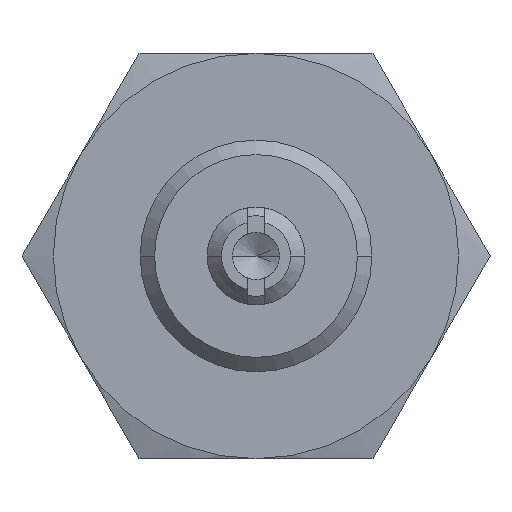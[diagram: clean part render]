
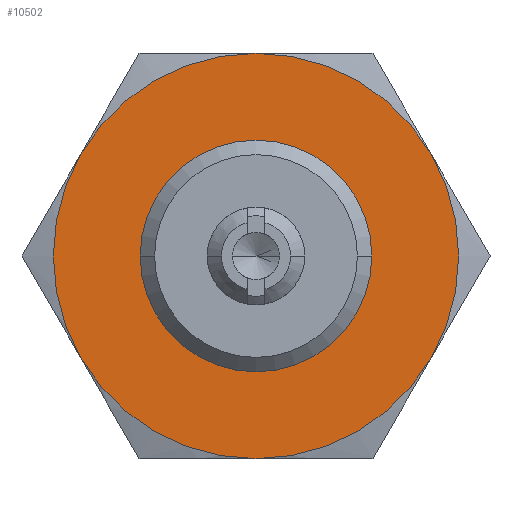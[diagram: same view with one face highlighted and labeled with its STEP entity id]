
A CAD part, left-side view. The second image highlights one B-rep face of the part: STEP entity #10502.
In plain terms, the highlighted free-form (B-spline) face has degree [1, 1] with [2, 2] control points.
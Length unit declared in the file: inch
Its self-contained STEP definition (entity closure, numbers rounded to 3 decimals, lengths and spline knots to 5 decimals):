
#2160=CARTESIAN_POINT('',(-0.2775,0.0,-0.4375));
#2161=VERTEX_POINT('',#2160);
#2195=CARTESIAN_POINT('',(-0.2775,0.,0.4375));
#2196=VERTEX_POINT('',#2195);
#2203=CARTESIAN_POINT('',(-0.2775,0.0,0.0));
#2204=DIRECTION('',(-1.0,0.0,0.0));
#2205=DIRECTION('',(0.0,0.0,-1.0));
#2206=AXIS2_PLACEMENT_3D('',#2203,#2204,#2205);
#2207=CIRCLE('',#2206,0.4375);
#2208=EDGE_CURVE('',#2161,#2196,#2207,.T.);
#5463=CARTESIAN_POINT('',(-0.2775,0.2495,0.0));
#5464=VERTEX_POINT('',#5463);
#5473=CARTESIAN_POINT('',(-0.2775,-0.2495,0.));
#5474=VERTEX_POINT('',#5473);
#5475=CARTESIAN_POINT('',(-0.2775,0.0,0.0));
#5476=DIRECTION('',(1.0,0.0,0.0));
#5477=DIRECTION('',(0.0,1.0,0.0));
#5478=AXIS2_PLACEMENT_3D('',#5475,#5476,#5477);
#5479=CIRCLE('',#5478,0.2495);
#5480=EDGE_CURVE('',#5474,#5464,#5479,.T.);
#6566=CARTESIAN_POINT('',(-0.2775,0.0,0.0));
#6567=DIRECTION('',(1.0,0.0,0.0));
#6568=DIRECTION('',(0.0,1.0,0.0));
#6569=AXIS2_PLACEMENT_3D('',#6566,#6567,#6568);
#6570=CIRCLE('',#6569,0.2495);
#6571=EDGE_CURVE('',#5464,#5474,#6570,.T.);
#10475=CARTESIAN_POINT('',(-0.2775,0.0,0.0));
#10476=DIRECTION('',(-1.0,0.0,0.0));
#10477=DIRECTION('',(0.0,0.0,-1.0));
#10478=AXIS2_PLACEMENT_3D('',#10475,#10476,#10477);
#10479=CIRCLE('',#10478,0.4375);
#10480=EDGE_CURVE('',#2196,#2161,#10479,.T.);
#10489=CARTESIAN_POINT('',(-0.2775,0.4375,0.4375));
#10490=CARTESIAN_POINT('',(-0.2775,0.4375,-0.4375));
#10491=CARTESIAN_POINT('',(-0.2775,-0.4375,0.4375));
#10492=CARTESIAN_POINT('',(-0.2775,-0.4375,-0.4375));
#10493=B_SPLINE_SURFACE_WITH_KNOTS('',1,1,((#10489,#10491),(#10490,#10492)),.UNSPECIFIED.,.F.,.F.,.U.,(2,2),(2,2),(0.0,0.875),(0.0,0.875),.UNSPECIFIED.);
#10494=ORIENTED_EDGE('',*,*,#2208,.T.);
#10495=ORIENTED_EDGE('',*,*,#10480,.T.);
#10496=EDGE_LOOP('',(#10494,#10495));
#10497=FACE_OUTER_BOUND('',#10496,.T.);
#10498=ORIENTED_EDGE('',*,*,#6571,.T.);
#10499=ORIENTED_EDGE('',*,*,#5480,.T.);
#10500=EDGE_LOOP('',(#10498,#10499));
#10501=FACE_BOUND('',#10500,.T.);
#10502=ADVANCED_FACE('',(#10497,#10501),#10493,.T.);
